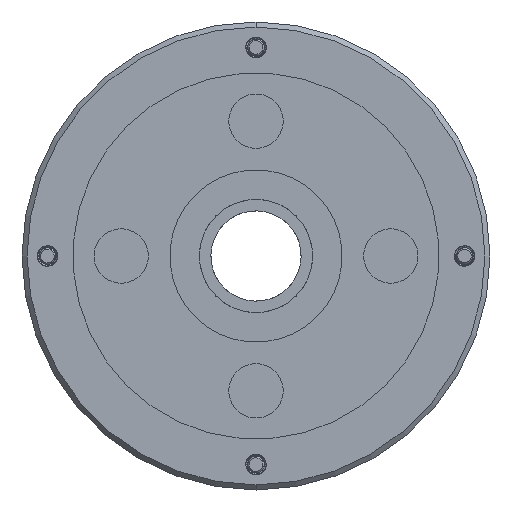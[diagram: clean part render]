
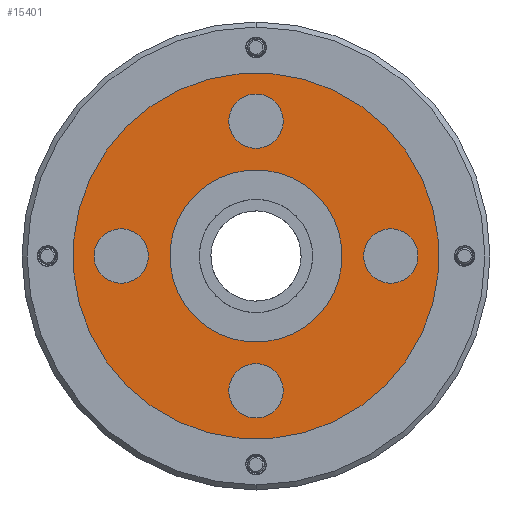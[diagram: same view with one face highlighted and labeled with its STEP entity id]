
A CAD part, front view. The second image highlights one B-rep face of the part: STEP entity #15401.
In plain terms, the highlighted planar face has unit normal (0, -1, 0).
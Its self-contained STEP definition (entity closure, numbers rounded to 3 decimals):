
#287 = VERTEX_POINT ( 'NONE', #94769 ) ;
#492 = ORIENTED_EDGE ( 'NONE', *, *, #20900, .F. ) ;
#857 = DIRECTION ( 'NONE',  ( 0., -1., 0. ) ) ;
#1103 = DIRECTION ( 'NONE',  ( 0., -1., 0. ) ) ;
#1518 = VERTEX_POINT ( 'NONE', #19094 ) ;
#1929 = ORIENTED_EDGE ( 'NONE', *, *, #72351, .F. ) ;
#2699 = CIRCLE ( 'NONE', #92641, 53.975 ) ;
#4153 = DIRECTION ( 'NONE',  ( 0.707, 0., -0.707 ) ) ;
#4158 = CARTESIAN_POINT ( 'NONE',  ( 63.388, -316.1, 35.675 ) ) ;
#4222 = DIRECTION ( 'NONE',  ( 0., -1., 0. ) ) ;
#5028 = VERTEX_POINT ( 'NONE', #4158 ) ;
#5514 = FACE_BOUND ( 'NONE', #47697, .T. ) ;
#7240 = DIRECTION ( 'NONE',  ( 0., -1., 0. ) ) ;
#10299 = EDGE_CURVE ( 'NONE', #100825, #1518, #60016, .T. ) ;
#11180 = DIRECTION ( 'NONE',  ( 0.707, 0., -0.707 ) ) ;
#11356 = ORIENTED_EDGE ( 'NONE', *, *, #68943, .F. ) ;
#12288 = VERTEX_POINT ( 'NONE', #108486 ) ;
#15401 = ADVANCED_FACE ( 'NONE', ( #67689, #94681, #50039, #85861, #5514, #41229 ), #104066, .T. ) ;
#15855 = DIRECTION ( 'NONE',  ( 0.707, 0., -0.707 ) ) ;
#15995 = EDGE_CURVE ( 'NONE', #58968, #287, #31496, .T. ) ;
#17206 = CARTESIAN_POINT ( 'NONE',  ( -14.529, -316.1, 73.841 ) ) ;
#19094 = CARTESIAN_POINT ( 'NONE',  ( 43.182, -316.1, 55.881 ) ) ;
#20900 = EDGE_CURVE ( 'NONE', #38273, #115313, #34225, .T. ) ;
#21801 = EDGE_CURVE ( 'NONE', #12288, #5028, #32509, .T. ) ;
#24237 = CARTESIAN_POINT ( 'NONE',  ( -20.187, -316.1, 79.499 ) ) ;
#24799 = ORIENTED_EDGE ( 'NONE', *, *, #28890, .F. ) ;
#25671 = DIRECTION ( 'NONE',  ( 0., -1., 0. ) ) ;
#25987 = DIRECTION ( 'NONE',  ( 0., -1., 0. ) ) ;
#27474 = EDGE_CURVE ( 'NONE', #5028, #12288, #2699, .T. ) ;
#28435 = EDGE_LOOP ( 'NONE', ( #59984, #105226 ) ) ;
#28890 = EDGE_CURVE ( 'NONE', #48160, #49280, #29221, .T. ) ;
#29221 = CIRCLE ( 'NONE', #72293, 8.001 ) ;
#29363 = DIRECTION ( 'NONE',  ( 0., -1., 0. ) ) ;
#29519 = AXIS2_PLACEMENT_3D ( 'NONE', #52924, #25987, #34208 ) ;
#30412 = CARTESIAN_POINT ( 'NONE',  ( 25.222, -316.1, 73.841 ) ) ;
#31496 = CIRCLE ( 'NONE', #108254, 8.001 ) ;
#31806 = DIRECTION ( 'NONE',  ( 0., -1., 0. ) ) ;
#32014 = ORIENTED_EDGE ( 'NONE', *, *, #15995, .F. ) ;
#32509 = CIRCLE ( 'NONE', #98069, 53.975 ) ;
#34102 = AXIS2_PLACEMENT_3D ( 'NONE', #56976, #4222, #66366 ) ;
#34208 = DIRECTION ( 'NONE',  ( 0.707, 0., -0.707 ) ) ;
#34225 = CIRCLE ( 'NONE', #114785, 8.001 ) ;
#34678 = ORIENTED_EDGE ( 'NONE', *, *, #35824, .F. ) ;
#35824 = EDGE_CURVE ( 'NONE', #287, #58968, #73187, .T. ) ;
#36855 = CARTESIAN_POINT ( 'NONE',  ( 25.222, -316.1, 34.09 ) ) ;
#38273 = VERTEX_POINT ( 'NONE', #73761 ) ;
#39719 = DIRECTION ( 'NONE',  ( 0.707, 0., -0.707 ) ) ;
#41229 = FACE_OUTER_BOUND ( 'NONE', #28435, .T. ) ;
#42136 = CARTESIAN_POINT ( 'NONE',  ( 64.973, -316.1, 73.841 ) ) ;
#42868 = EDGE_CURVE ( 'NONE', #115313, #38273, #81957, .T. ) ;
#44145 = DIRECTION ( 'NONE',  ( 0., -1., 0. ) ) ;
#45572 = CARTESIAN_POINT ( 'NONE',  ( 25.222, -316.1, 73.841 ) ) ;
#46164 = DIRECTION ( 'NONE',  ( 0., -1., 0. ) ) ;
#46942 = CARTESIAN_POINT ( 'NONE',  ( 19.564, -316.1, 39.748 ) ) ;
#47641 = EDGE_LOOP ( 'NONE', ( #34678, #32014 ) ) ;
#47697 = EDGE_LOOP ( 'NONE', ( #77294, #115249 ) ) ;
#48160 = VERTEX_POINT ( 'NONE', #84722 ) ;
#48317 = CIRCLE ( 'NONE', #108325, 25.4 ) ;
#49280 = VERTEX_POINT ( 'NONE', #93450 ) ;
#50039 = FACE_BOUND ( 'NONE', #84648, .T. ) ;
#52057 = DIRECTION ( 'NONE',  ( 0.707, 0., -0.707 ) ) ;
#52924 = CARTESIAN_POINT ( 'NONE',  ( 25.222, -316.1, 73.841 ) ) ;
#53178 = CARTESIAN_POINT ( 'NONE',  ( 7.261, -316.1, 91.802 ) ) ;
#54164 = DIRECTION ( 'NONE',  ( 0.707, 0., -0.707 ) ) ;
#56580 = ORIENTED_EDGE ( 'NONE', *, *, #77899, .F. ) ;
#56976 = CARTESIAN_POINT ( 'NONE',  ( 25.222, -316.1, 34.09 ) ) ;
#58968 = VERTEX_POINT ( 'NONE', #24237 ) ;
#59984 = ORIENTED_EDGE ( 'NONE', *, *, #27474, .T. ) ;
#60016 = CIRCLE ( 'NONE', #104944, 25.4 ) ;
#60189 = VERTEX_POINT ( 'NONE', #114684 ) ;
#61154 = EDGE_LOOP ( 'NONE', ( #85642, #492 ) ) ;
#66366 = DIRECTION ( 'NONE',  ( 0.707, 0., -0.707 ) ) ;
#67689 = FACE_BOUND ( 'NONE', #115759, .T. ) ;
#68943 = EDGE_CURVE ( 'NONE', #49280, #48160, #99387, .T. ) ;
#69674 = CARTESIAN_POINT ( 'NONE',  ( 25.222, -316.1, 73.841 ) ) ;
#71234 = AXIS2_PLACEMENT_3D ( 'NONE', #88731, #29363, #11180 ) ;
#72293 = AXIS2_PLACEMENT_3D ( 'NONE', #105768, #7240, #104623 ) ;
#72351 = EDGE_CURVE ( 'NONE', #77591, #60189, #105383, .T. ) ;
#73187 = CIRCLE ( 'NONE', #88160, 8.001 ) ;
#73761 = CARTESIAN_POINT ( 'NONE',  ( 59.315, -316.1, 79.499 ) ) ;
#74295 = CIRCLE ( 'NONE', #96806, 8.001 ) ;
#77294 = ORIENTED_EDGE ( 'NONE', *, *, #10299, .F. ) ;
#77591 = VERTEX_POINT ( 'NONE', #46942 ) ;
#77899 = EDGE_CURVE ( 'NONE', #60189, #77591, #74295, .T. ) ;
#80616 = DIRECTION ( 'NONE',  ( 0.707, 0., -0.707 ) ) ;
#81957 = CIRCLE ( 'NONE', #104481, 8.001 ) ;
#84648 = EDGE_LOOP ( 'NONE', ( #56580, #1929 ) ) ;
#84722 = CARTESIAN_POINT ( 'NONE',  ( 19.564, -316.1, 119.25 ) ) ;
#84765 = DIRECTION ( 'NONE',  ( 0.707, 0., -0.707 ) ) ;
#85481 = DIRECTION ( 'NONE',  ( 0., -1., 0. ) ) ;
#85642 = ORIENTED_EDGE ( 'NONE', *, *, #42868, .F. ) ;
#85861 = FACE_BOUND ( 'NONE', #61154, .T. ) ;
#88160 = AXIS2_PLACEMENT_3D ( 'NONE', #17206, #44145, #80616 ) ;
#88467 = CARTESIAN_POINT ( 'NONE',  ( -14.529, -316.1, 73.841 ) ) ;
#88731 = CARTESIAN_POINT ( 'NONE',  ( 25.222, -316.1, 113.592 ) ) ;
#89395 = CARTESIAN_POINT ( 'NONE',  ( 25.222, -316.1, 73.841 ) ) ;
#92641 = AXIS2_PLACEMENT_3D ( 'NONE', #45572, #1103, #107828 ) ;
#93450 = CARTESIAN_POINT ( 'NONE',  ( 30.88, -316.1, 107.935 ) ) ;
#94681 = FACE_BOUND ( 'NONE', #47641, .T. ) ;
#94769 = CARTESIAN_POINT ( 'NONE',  ( -8.871, -316.1, 68.184 ) ) ;
#96255 = CARTESIAN_POINT ( 'NONE',  ( 64.973, -316.1, 73.841 ) ) ;
#96806 = AXIS2_PLACEMENT_3D ( 'NONE', #36855, #111764, #84765 ) ;
#98069 = AXIS2_PLACEMENT_3D ( 'NONE', #89395, #857, #54164 ) ;
#99387 = CIRCLE ( 'NONE', #71234, 8.001 ) ;
#100825 = VERTEX_POINT ( 'NONE', #53178 ) ;
#103759 = CARTESIAN_POINT ( 'NONE',  ( 70.631, -316.1, 68.184 ) ) ;
#104066 = PLANE ( 'NONE',  #29519 ) ;
#104481 = AXIS2_PLACEMENT_3D ( 'NONE', #96255, #31806, #15855 ) ;
#104623 = DIRECTION ( 'NONE',  ( 0.707, 0., -0.707 ) ) ;
#104944 = AXIS2_PLACEMENT_3D ( 'NONE', #69674, #25671, #52057 ) ;
#105226 = ORIENTED_EDGE ( 'NONE', *, *, #21801, .T. ) ;
#105383 = CIRCLE ( 'NONE', #34102, 8.001 ) ;
#105768 = CARTESIAN_POINT ( 'NONE',  ( 25.222, -316.1, 113.592 ) ) ;
#106702 = EDGE_CURVE ( 'NONE', #1518, #100825, #48317, .T. ) ;
#107822 = DIRECTION ( 'NONE',  ( 0.707, 0., -0.707 ) ) ;
#107828 = DIRECTION ( 'NONE',  ( 0.707, 0., -0.707 ) ) ;
#108254 = AXIS2_PLACEMENT_3D ( 'NONE', #88467, #46164, #107822 ) ;
#108325 = AXIS2_PLACEMENT_3D ( 'NONE', #30412, #85481, #39719 ) ;
#108486 = CARTESIAN_POINT ( 'NONE',  ( -12.944, -316.1, 112.007 ) ) ;
#111764 = DIRECTION ( 'NONE',  ( 0., -1., 0. ) ) ;
#112054 = DIRECTION ( 'NONE',  ( 0., -1., 0. ) ) ;
#114684 = CARTESIAN_POINT ( 'NONE',  ( 30.88, -316.1, 28.433 ) ) ;
#114785 = AXIS2_PLACEMENT_3D ( 'NONE', #42136, #112054, #4153 ) ;
#115249 = ORIENTED_EDGE ( 'NONE', *, *, #106702, .F. ) ;
#115313 = VERTEX_POINT ( 'NONE', #103759 ) ;
#115759 = EDGE_LOOP ( 'NONE', ( #11356, #24799 ) ) ;
